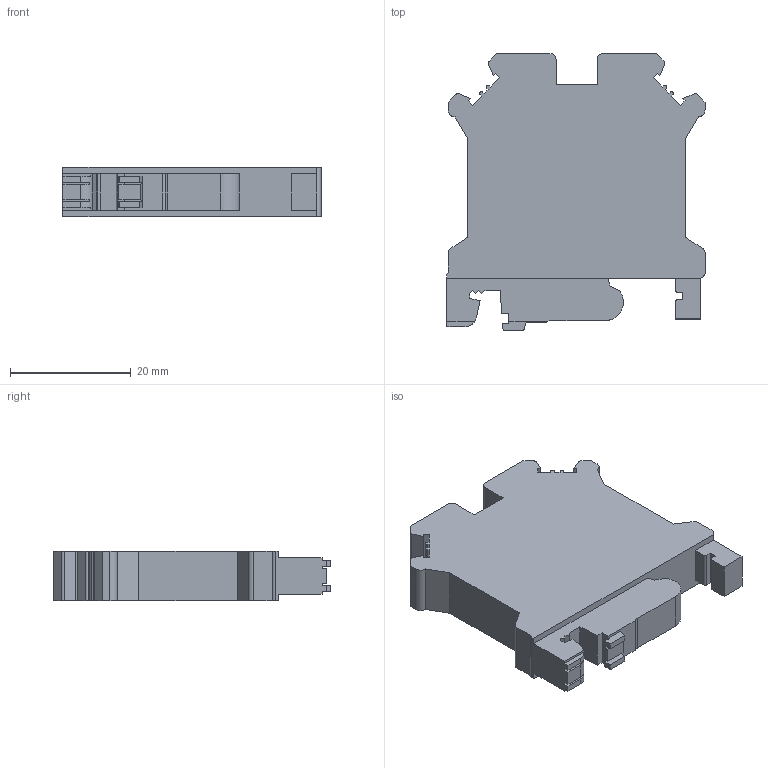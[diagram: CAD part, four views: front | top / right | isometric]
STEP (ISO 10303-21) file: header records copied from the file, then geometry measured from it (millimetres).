
FILE_DESCRIPTION(/* description */ (''),/* implementation_level */ '2;1');
FILE_NAME(/* name */ 'JUT1-6PE.stp',/* time_stamp */ '2023-02-14T15:06:24+08:00',/* author */ (''),/* organization */ (''),/* preprocessor_version */ 'ST-DEVELOPER v16.7',/* originating_system */ 'SIEMENS PLM Software NX 12.0',/* authorisation */ '');
FILE_SCHEMA (('AP203_CONFIGURATION_CONTROLLED_3D_DESIGN_OF_MECHANICAL_PARTS_AND_ASSEMBLIES_MIM_LF { 1 0 10303 403 2 1 2}'));
Length unit declared in the file: millimetre
Products named in the file (1): Admi01CC23451nrc
Bounding box: 42.7 x 45.8 x 8.2 mm (x, y, z)
Volume: 12016.7 mm3; surface area: 4865.2 mm2
Topology: 1 solids, 1 shells, 129 faces, 381 edges, 254 vertices
Faces by surface type: plane 108, cylinder 21
Entity records: 4365 total; most frequent: CARTESIAN_POINT 765, ORIENTED_EDGE 762, DIRECTION 689, EDGE_CURVE 381, LINE 333, VECTOR 333, VERTEX_POINT 254, AXIS2_PLACEMENT_3D 178
